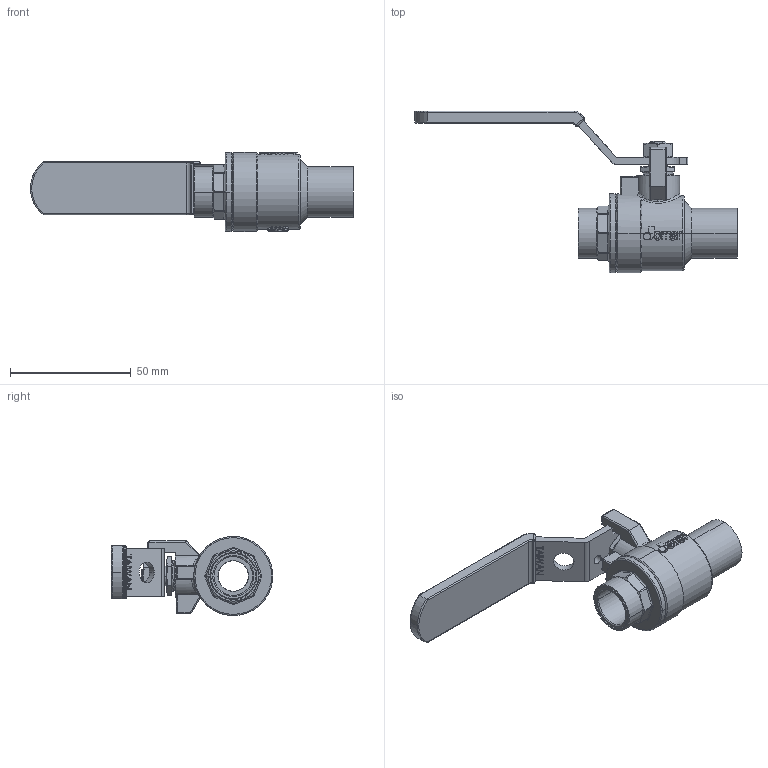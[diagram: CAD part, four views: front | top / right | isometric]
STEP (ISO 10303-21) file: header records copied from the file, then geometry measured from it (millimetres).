
FILE_DESCRIPTION (( 'STEP AP203' ), '1' );
FILE_NAME ('ABL733-無掛鎖-0.5''''JOMAR球閥體-CxC組合.STEP', '2026-04-13T03:44:55', ( '' ), ( '' ), 'SwSTEP 2.0', 'SolidWorks 2018', '' );
FILE_SCHEMA (( 'CONFIG_CONTROL_DESIGN' ));
Length unit declared in the file: millimetre
Products named in the file (13): NBL262; DN15-CBL211黃色膠套-S-200CSS; DN15-CBL733-HANDLE & SLEEVE 組合(黃色S膠套); TBL163-無鑽孔; ABL733-無掛鎖-0.5''''JOMAR球閥體-CxC組合; EBL203B; EBL213; RBL263; BBL733A-0.5''''JOMAR球閥CxC帽蓋-有鉛-端面插溝; CBL211; GBL211; BBL733-0.5''''JOMAR球閥體-CxC-有鉛-端面插溝-無LF; EBL203A
Assembly tree (13 placements, depth 3):
  ABL733-無掛鎖-0.5''''JOMAR球閥體-CxC組合
    BBL733-0.5''''JOMAR球閥體-CxC-有鉛-端面插溝-無LF
    EBL203A
    EBL203B
    GBL211
    RBL263
    TBL163-無鑽孔
    BBL733A-0.5''''JOMAR球閥CxC帽蓋-有鉛-端面插溝
    EBL213  x2
    NBL262
    DN15-CBL733-HANDLE & SLEEVE 組合(黃色S膠套)
      CBL211
      DN15-CBL211黃色膠套-S-200CSS
Bounding box: 133.55 x 66.86 x 32.7 mm (x, y, z)
Volume: 38303.2 mm3; surface area: 33796.1 mm2
Topology: 12 solids, 12 shells, 1458 faces, 3851 edges, 2517 vertices
Faces by surface type: plane 580, bspline 514, cylinder 246, cone 72, torus 38, sphere 8
Entity records: 86132 total; most frequent: CARTESIAN_POINT 53171, ORIENTED_EDGE 7626, DIRECTION 4718, EDGE_CURVE 3813, VERTEX_POINT 2499, VECTOR 1932, LINE 1932, EDGE_LOOP 1580
